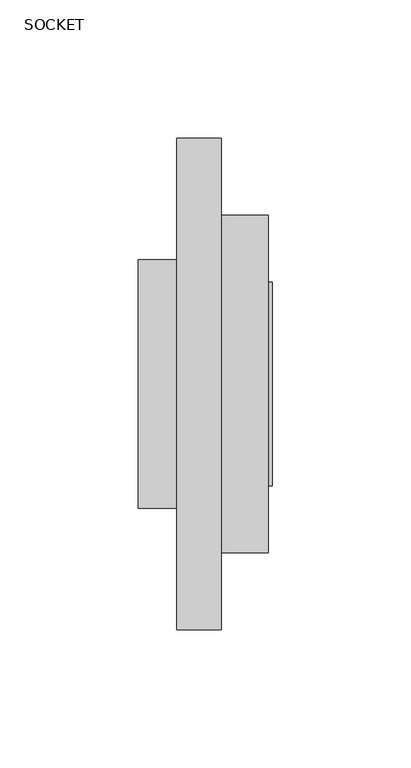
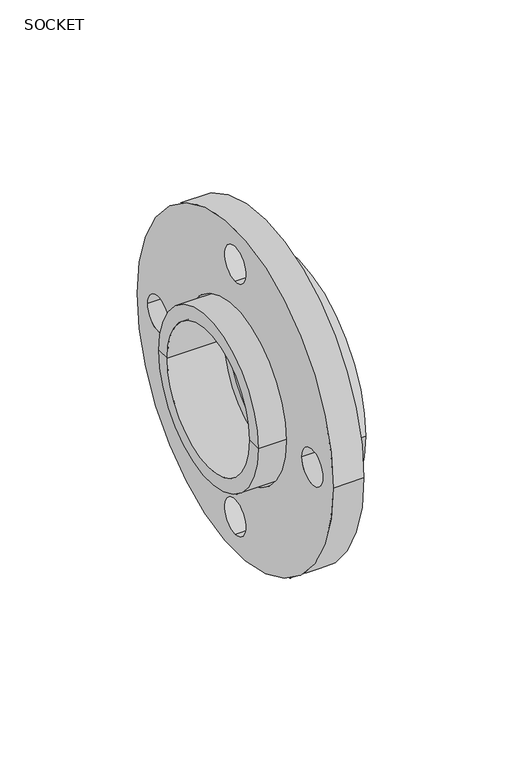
"""IFC4 building model written with IfcOpenShell, lengths in millimetres: valve geometry, Aquatherm - Flange Adapter Socket : SOCKET."""

from ifc_helpers import new_model, si_unit, point, frame, frame_2d, origin, origin_2d, place, context, project, spatial, polyline, circle_curve, trimmed, segment, composite_curve, outline, extrude, source, transform, mapped, element, save
from ifc_brep_helpers import plane_surface, cylinder_surface, revolved_surface, advanced_brep


def socket_4938e411(model_context):
    return source(origin(), model_context, "Body", "SolidModel", [
        extrude(outline(composite_curve([segment(trimmed(circle_curve(origin_2d(), 88.9), [point((88.9, 0.0))], [point((-88.9, 0.0))], False, "CARTESIAN"), True, "CONTINUOUS"), segment(trimmed(circle_curve(origin_2d(), 88.9), [point((-88.9, 0.0))], [point((88.9, 0.0))], False, "CARTESIAN"), True, "CONTINUOUS")], self_intersect=False), holes=[composite_curve([segment(trimmed(circle_curve(origin_2d(), 46.101), [point((46.101, 0.0))], [point((-46.101, 0.0))], True, "CARTESIAN"), True, "CONTINUOUS"), segment(trimmed(circle_curve(origin_2d(), 46.101), [point((-46.101, 0.0))], [point((46.101, 0.0))], True, "CARTESIAN"), True, "CONTINUOUS")], self_intersect=False), composite_curve([segment(trimmed(circle_curve(frame_2d((-69.85, 0.0)), 9.525), [point((-60.325, 0.0))], [point((-79.375, 0.0))], True, "CARTESIAN"), True, "CONTINUOUS"), segment(trimmed(circle_curve(frame_2d((-69.85, 0.0)), 9.525), [point((-79.375, 0.0))], [point((-60.325, 0.0))], True, "CARTESIAN"), True, "CONTINUOUS")], self_intersect=False), composite_curve([segment(trimmed(circle_curve(frame_2d((0.0, -69.85)), 9.525), [point((0.0, -60.325))], [point((0.0, -79.375))], True, "CARTESIAN"), True, "CONTINUOUS"), segment(trimmed(circle_curve(frame_2d((0.0, -69.85)), 9.525), [point((0.0, -79.375))], [point((0.0, -60.325))], True, "CARTESIAN"), True, "CONTINUOUS")], self_intersect=False), composite_curve([segment(trimmed(circle_curve(frame_2d((0.0, 69.85)), 9.525), [point((0.0, 60.325))], [point((0.0, 79.375))], True, "CARTESIAN"), True, "CONTINUOUS"), segment(trimmed(circle_curve(frame_2d((0.0, 69.85)), 9.525), [point((0.0, 79.375))], [point((0.0, 60.325))], True, "CARTESIAN"), True, "CONTINUOUS")], self_intersect=False), composite_curve([segment(trimmed(circle_curve(frame_2d((69.85, 0.0)), 9.525), [point((60.325, 0.0))], [point((79.375, 0.0))], True, "CARTESIAN"), True, "CONTINUOUS"), segment(trimmed(circle_curve(frame_2d((69.85, 0.0)), 9.525), [point((79.375, 0.0))], [point((60.325, 0.0))], True, "CARTESIAN"), True, "CONTINUOUS")], self_intersect=False)]), frame((-16.002, 0.0, 0.0), z_axis=(1.0, 0.0, 0.0), x_axis=(0.0, 1.0, 0.0)), (0.0, 0.0, 1.0), 16.002),
        advanced_brep(
        [(18.542, -31.75, 0.0), (18.542, -36.83, 0.0), (18.542, 36.83, 0.0), (18.542, 31.75, 0.0), (0.0, -31.75, 0.0), (0.0, 31.75, 0.0), (0.0, -37.465, 0.0), (0.0, 37.465, 0.0), (-29.972, -37.465, 0.0), (-29.972, 37.465, 0.0), (-29.972, -44.958, 0.0), (-29.972, 44.958, 0.0), (0.0, -44.958, 0.0), (0.0, 44.958, 0.0), (0.0, -60.96, 0.0), (0.0, 60.96, 0.0), (17.018, -60.96, 0.0), (17.018, 60.96, 0.0), (17.018, -36.83, 0.0), (17.018, 36.83, 0.0)],
        [
            (0, 1),
            (1, 2, circle_curve(frame((18.542, 0.0, 0.0), z_axis=(1.0, 0.0, 0.0), x_axis=(0.0, 1.0, 0.0)), 36.83)),
            (2, 3),
            (3, 0, circle_curve(frame((18.542, 0.0, 0.0), z_axis=(-1.0, 0.0, 0.0), x_axis=(0.0, 1.0, 0.0)), 31.75)),
            (2, 1, circle_curve(frame((18.542, 0.0, 0.0), z_axis=(1.0, 0.0, 0.0), x_axis=(0.0, 1.0, 0.0)), 36.83)),
            (0, 3, circle_curve(frame((18.542, 0.0, 0.0), z_axis=(-1.0, 0.0, 0.0), x_axis=(0.0, 1.0, 0.0)), 31.75)),
            (4, 0),
            (3, 5),
            (5, 4, circle_curve(frame((0.0, 0.0, 0.0), z_axis=(-1.0, 0.0, 0.0), x_axis=(0.0, 1.0, 0.0)), 31.75)),
            (4, 5, circle_curve(frame((0.0, 0.0, 0.0), z_axis=(-1.0, 0.0, 0.0), x_axis=(0.0, 1.0, 0.0)), 31.75)),
            (6, 4),
            (5, 7),
            (7, 6, circle_curve(frame((0.0, 0.0, 0.0), z_axis=(-1.0, 0.0, 0.0), x_axis=(0.0, 1.0, 0.0)), 37.465)),
            (6, 7, circle_curve(frame((0.0, 0.0, 0.0), z_axis=(-1.0, 0.0, 0.0), x_axis=(0.0, 1.0, 0.0)), 37.465)),
            (8, 6),
            (7, 9),
            (9, 8, circle_curve(frame((-29.972, 0.0, 0.0), z_axis=(-1.0, 0.0, 0.0), x_axis=(0.0, 1.0, 0.0)), 37.465)),
            (8, 9, circle_curve(frame((-29.972, 0.0, 0.0), z_axis=(-1.0, 0.0, 0.0), x_axis=(0.0, 1.0, 0.0)), 37.465)),
            (10, 8),
            (9, 11),
            (11, 10, circle_curve(frame((-29.972, 0.0, 0.0), z_axis=(-1.0, 0.0, 0.0), x_axis=(0.0, 1.0, 0.0)), 44.958)),
            (10, 11, circle_curve(frame((-29.972, 0.0, 0.0), z_axis=(-1.0, 0.0, 0.0), x_axis=(0.0, 1.0, 0.0)), 44.958)),
            (12, 10),
            (11, 13),
            (13, 12, circle_curve(frame((0.0, 0.0, 0.0), z_axis=(-1.0, 0.0, 0.0), x_axis=(0.0, 1.0, 0.0)), 44.958)),
            (12, 13, circle_curve(frame((0.0, 0.0, 0.0), z_axis=(-1.0, 0.0, 0.0), x_axis=(0.0, 1.0, 0.0)), 44.958)),
            (14, 12),
            (13, 15),
            (15, 14, circle_curve(frame((0.0, 0.0, 0.0), z_axis=(-1.0, 0.0, 0.0), x_axis=(0.0, 1.0, 0.0)), 60.96)),
            (14, 15, circle_curve(frame((0.0, 0.0, 0.0), z_axis=(-1.0, 0.0, 0.0), x_axis=(0.0, 1.0, 0.0)), 60.96)),
            (16, 14),
            (15, 17),
            (17, 16, circle_curve(frame((17.018, 0.0, 0.0), z_axis=(-1.0, 0.0, 0.0), x_axis=(0.0, 1.0, 0.0)), 60.96)),
            (16, 17, circle_curve(frame((17.018, 0.0, 0.0), z_axis=(-1.0, 0.0, 0.0), x_axis=(0.0, 1.0, 0.0)), 60.96)),
            (18, 16),
            (17, 19),
            (19, 18, circle_curve(frame((17.018, 0.0, 0.0), z_axis=(-1.0, 0.0, 0.0), x_axis=(0.0, 1.0, 0.0)), 36.83)),
            (18, 19, circle_curve(frame((17.018, 0.0, 0.0), z_axis=(-1.0, 0.0, 0.0), x_axis=(0.0, 1.0, 0.0)), 36.83)),
            (1, 18),
            (19, 2),
        ],
        [
            plane_surface(frame((18.542, 0.0, 0.0), z_axis=(1.0, 0.0, 0.0), x_axis=(0.0, 1.0, 0.0))),
            revolved_surface(polyline([(18.541999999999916, 31.75, 0.0), (0.0, 31.75, 0.0)]), (1447.8371939, 0.0, 0.0), (1.0, 0.0, 0.0)),
            plane_surface(frame((0.0, 0.0, 0.0), z_axis=(-1.0, 0.0, 0.0), x_axis=(0.0, 1.0, 0.0))),
            revolved_surface(polyline([(0.0, 37.465, 0.0), (-29.97199999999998, 37.465, 0.0)]), (1447.8371939, 0.0, 0.0), (1.0, 0.0, 0.0)),
            plane_surface(frame((-29.972, 0.0, 0.0), z_axis=(-1.0, 0.0, 0.0), x_axis=(0.0, 1.0, 0.0))),
            cylinder_surface(frame((1447.8371939, 0.0, 0.0), z_axis=(1.0, 0.0, 0.0), x_axis=(0.0, 1.0, 0.0)), 44.958),
            cylinder_surface(frame((1447.8371939, 0.0, 0.0), z_axis=(1.0, 0.0, 0.0), x_axis=(0.0, 1.0, 0.0)), 60.96),
            plane_surface(frame((17.018, 0.0, 0.0), z_axis=(1.0, 0.0, 0.0), x_axis=(0.0, 1.0, 0.0))),
            cylinder_surface(frame((1447.8371939, 0.0, 0.0), z_axis=(1.0, 0.0, 0.0), x_axis=(0.0, 1.0, 0.0)), 36.83),
        ],
        [
            (0, [[1, 2, 3, 4]]),
            (0, [[-3, 5, -1, 6]]),
            (1, [[7, -4, 8, 9]]),
            (1, [[-8, -6, -7, 10]]),
            (2, [[11, -9, 12, 13]]),
            (2, [[-12, -10, -11, 14]]),
            (3, [[15, -13, 16, 17]]),
            (3, [[-16, -14, -15, 18]]),
            (4, [[19, -17, 20, 21]]),
            (4, [[-20, -18, -19, 22]]),
            (5, [[23, -21, 24, 25]]),
            (5, [[-24, -22, -23, 26]]),
            (2, [[27, -25, 28, 29]]),
            (2, [[-28, -26, -27, 30]]),
            (6, [[31, -29, 32, 33]]),
            (6, [[-32, -30, -31, 34]]),
            (7, [[35, -33, 36, 37]]),
            (7, [[-36, -34, -35, 38]]),
            (8, [[39, -37, 40, -2]]),
            (8, [[-40, -38, -39, -5]]),
        ],
    ),
    ])


if __name__ == "__main__":
    model = new_model("IFC4")
    model_context = context("Model", 3, world=origin())
    ifc_project = project(units=[si_unit("LENGTHUNIT", "METRE", prefix="MILLI")], contexts=[model_context])
    site = spatial("IfcSite", under=ifc_project)
    building = spatial("IfcBuilding", under=site)
    placement = place(None, origin())
    ifc_socket_shape = socket_4938e411(model_context)
    element("IfcValve", 1, ObjectType="Aquatherm - Flange Adapter Socket : SOCKET", at=placement, inside=building, context=model_context, shape_type="MappedRepresentation", body=[
        mapped(ifc_socket_shape, transform((0.0, 0.0, 0.0), x_axis=(1.0, 0.0, 0.0), y_axis=(0.0, 1.0, 0.0), z_axis=(0.0, 0.0, 1.0))),
    ])
    save(model, "model.ifc")
